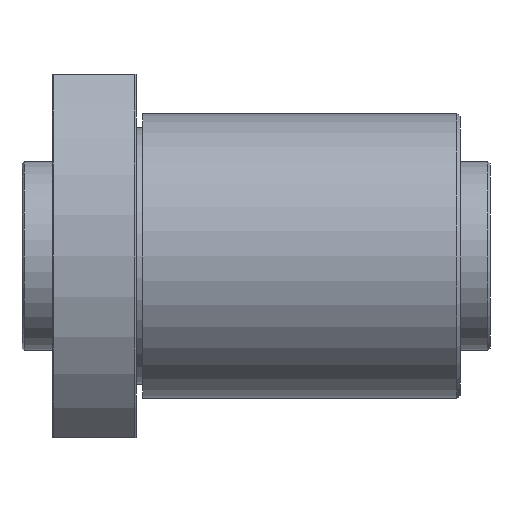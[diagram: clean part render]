
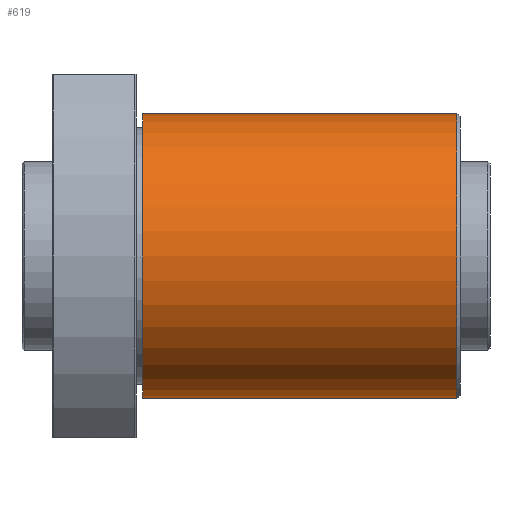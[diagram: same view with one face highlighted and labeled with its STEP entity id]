
A CAD part, front view. The second image highlights one B-rep face of the part: STEP entity #619.
In plain terms, the highlighted cylindrical face has radius 47.5 mm (diameter 95 mm), a full revolution.
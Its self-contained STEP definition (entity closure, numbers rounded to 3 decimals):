
#61=CYLINDRICAL_SURFACE('',#724,47.5);
#152=ORIENTED_EDGE('',*,*,#270,.T.);
#153=ORIENTED_EDGE('',*,*,#269,.F.);
#269=EDGE_CURVE('',#328,#328,#377,.T.);
#270=EDGE_CURVE('',#329,#329,#378,.T.);
#328=VERTEX_POINT('',#1133);
#329=VERTEX_POINT('',#1136);
#377=CIRCLE('',#723,47.5);
#378=CIRCLE('',#725,47.5);
#435=EDGE_LOOP('',(#152));
#436=EDGE_LOOP('',(#153));
#531=FACE_BOUND('',#435,.T.);
#532=FACE_BOUND('',#436,.T.);
#619=ADVANCED_FACE('',(#531,#532),#61,.T.);
#723=AXIS2_PLACEMENT_3D('',#1132,#878,#879);
#724=AXIS2_PLACEMENT_3D('',#1134,#880,#881);
#725=AXIS2_PLACEMENT_3D('',#1135,#882,#883);
#878=DIRECTION('',(1.,0.,0.));
#879=DIRECTION('',(0.,0.,-1.));
#880=DIRECTION('',(1.,0.,0.));
#881=DIRECTION('',(0.,0.,-1.));
#882=DIRECTION('',(1.,0.,0.));
#883=DIRECTION('',(0.,0.,-1.));
#1132=CARTESIAN_POINT('',(135.,0.,0.));
#1133=CARTESIAN_POINT('',(135.,0.,-47.5));
#1134=CARTESIAN_POINT('',(50.,0.,0.));
#1135=CARTESIAN_POINT('',(30.3,0.,0.));
#1136=CARTESIAN_POINT('',(30.3,0.,-47.5));
